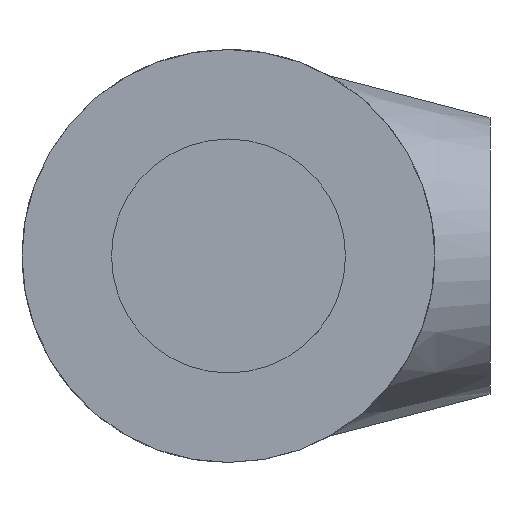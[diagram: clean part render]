
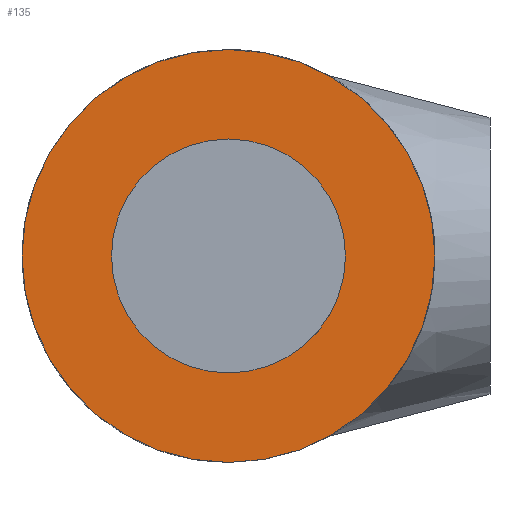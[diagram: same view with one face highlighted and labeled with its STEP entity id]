
A CAD part, front view. The second image highlights one B-rep face of the part: STEP entity #135.
In plain terms, the highlighted planar face has unit normal (0, -1, 0).
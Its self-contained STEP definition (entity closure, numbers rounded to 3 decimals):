
#65 = VERTEX_POINT ( 'NONE', #332 ) ;
#66 = EDGE_CURVE ( 'NONE', #70, #65, #397, .T. ) ;
#70 = VERTEX_POINT ( 'NONE', #389 ) ;
#82 = EDGE_CURVE ( 'NONE', #83, #84, #375, .T. ) ;
#83 = VERTEX_POINT ( 'NONE', #476 ) ;
#84 = VERTEX_POINT ( 'NONE', #475 ) ;
#135 = ADVANCED_FACE ( 'NONE', ( #555, #554 ), #553, .F. ) ;
#136 = EDGE_LOOP ( 'NONE', ( #137, #139 ) ) ;
#137 = ORIENTED_EDGE ( 'NONE', *, *, #138, .F. ) ;
#138 = EDGE_CURVE ( 'NONE', #65, #70, #547, .T. ) ;
#139 = ORIENTED_EDGE ( 'NONE', *, *, #66, .F. ) ;
#140 = EDGE_LOOP ( 'NONE', ( #141, #164 ) ) ;
#141 = ORIENTED_EDGE ( 'NONE', *, *, #82, .F. ) ;
#164 = ORIENTED_EDGE ( 'NONE', *, *, #165, .F. ) ;
#165 = EDGE_CURVE ( 'NONE', #84, #83, #610, .T. ) ;
#332 = CARTESIAN_POINT ( 'NONE',  ( 0., 0., -4.25 ) ) ;
#375 = CIRCLE ( 'NONE', #401, 7.5 ) ;
#389 = CARTESIAN_POINT ( 'NONE',  ( 0., 0., 4.25 ) ) ;
#393 = DIRECTION ( 'NONE',  ( 0., 0., -1. ) ) ;
#394 = DIRECTION ( 'NONE',  ( 0., -1., 0. ) ) ;
#395 = CARTESIAN_POINT ( 'NONE',  ( 0., 0., 0. ) ) ;
#396 = AXIS2_PLACEMENT_3D ( 'NONE', #395, #394, #393 ) ;
#397 = CIRCLE ( 'NONE', #396, 4.25 ) ;
#399 = DIRECTION ( 'NONE',  ( 0., 1., 0. ) ) ;
#400 = CARTESIAN_POINT ( 'NONE',  ( 0., 0., 0. ) ) ;
#401 = AXIS2_PLACEMENT_3D ( 'NONE', #400, #399, #477 ) ;
#475 = CARTESIAN_POINT ( 'NONE',  ( 0., 0., -7.5 ) ) ;
#476 = CARTESIAN_POINT ( 'NONE',  ( 0., 0., 7.5 ) ) ;
#477 = DIRECTION ( 'NONE',  ( 0., 0., 1. ) ) ;
#544 = DIRECTION ( 'NONE',  ( 0., 0., -1. ) ) ;
#545 = DIRECTION ( 'NONE',  ( 0., -1., 0. ) ) ;
#546 = AXIS2_PLACEMENT_3D ( 'NONE', #551, #545, #544 ) ;
#547 = CIRCLE ( 'NONE', #546, 4.25 ) ;
#548 = DIRECTION ( 'NONE',  ( 0., 0., 1. ) ) ;
#549 = DIRECTION ( 'NONE',  ( 0., 1., 0. ) ) ;
#550 = AXIS2_PLACEMENT_3D ( 'NONE', #552, #549, #548 ) ;
#551 = CARTESIAN_POINT ( 'NONE',  ( 0., 0., 0. ) ) ;
#552 = CARTESIAN_POINT ( 'NONE',  ( 0., 0., 0. ) ) ;
#553 = PLANE ( 'NONE',  #550 ) ;
#554 = FACE_OUTER_BOUND ( 'NONE', #140, .T. ) ;
#555 = FACE_BOUND ( 'NONE', #136, .T. ) ;
#603 = DIRECTION ( 'NONE',  ( 0., 0., 1. ) ) ;
#604 = DIRECTION ( 'NONE',  ( 0., 1., 0. ) ) ;
#605 = CARTESIAN_POINT ( 'NONE',  ( 0., 0., 0. ) ) ;
#606 = AXIS2_PLACEMENT_3D ( 'NONE', #605, #604, #603 ) ;
#610 = CIRCLE ( 'NONE', #606, 7.5 ) ;
